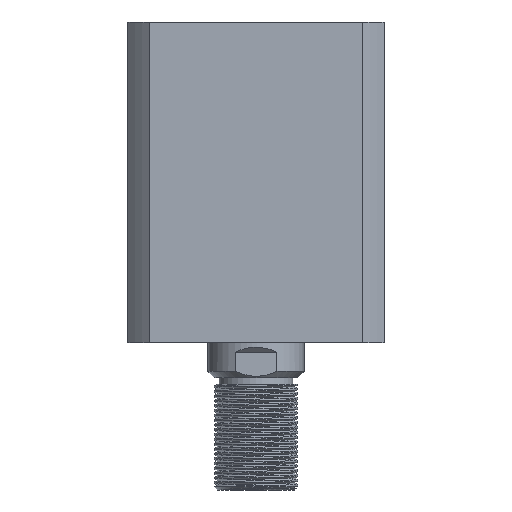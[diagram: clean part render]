
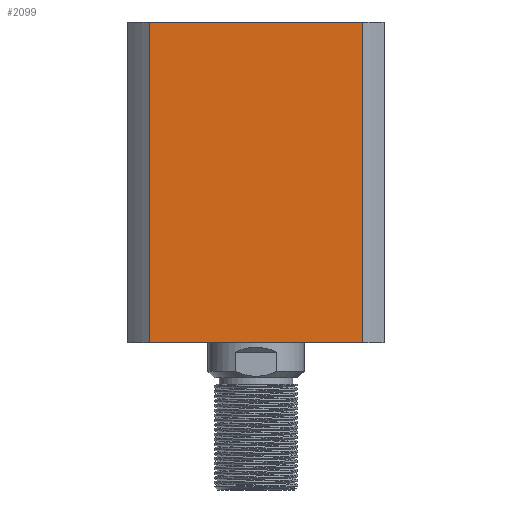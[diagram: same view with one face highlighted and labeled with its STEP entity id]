
A CAD part, left-side view. The second image highlights one B-rep face of the part: STEP entity #2099.
In plain terms, the highlighted planar face has unit normal (-1, 0, 0).
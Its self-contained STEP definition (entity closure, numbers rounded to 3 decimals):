
#585 = CARTESIAN_POINT ( 'NONE',  ( -40., 33.226, -50. ) ) ;
#1366 = VERTEX_POINT ( 'NONE', #11934 ) ;
#1448 = VECTOR ( 'NONE', #12849, 1000. ) ;
#1695 = DIRECTION ( 'NONE',  ( 0., 0., -1. ) ) ;
#2099 = ADVANCED_FACE ( 'NONE', ( #13224 ), #15255, .F. ) ;
#2600 = EDGE_CURVE ( 'NONE', #1366, #10970, #7388, .T. ) ;
#3161 = ORIENTED_EDGE ( 'NONE', *, *, #13154, .F. ) ;
#3542 = CARTESIAN_POINT ( 'NONE',  ( -40., -33.226, 50. ) ) ;
#4446 = EDGE_CURVE ( 'NONE', #10970, #6915, #17767, .T. ) ;
#4693 = CARTESIAN_POINT ( 'NONE',  ( -40., -33.226, 50. ) ) ;
#6161 = VECTOR ( 'NONE', #13081, 1000. ) ;
#6300 = AXIS2_PLACEMENT_3D ( 'NONE', #8403, #9567, #10960 ) ;
#6504 = ORIENTED_EDGE ( 'NONE', *, *, #4446, .T. ) ;
#6915 = VERTEX_POINT ( 'NONE', #14952 ) ;
#7388 = LINE ( 'NONE', #16991, #17512 ) ;
#7500 = DIRECTION ( 'NONE',  ( 0., -1., 0. ) ) ;
#8171 = EDGE_CURVE ( 'NONE', #1366, #11964, #12720, .T. ) ;
#8403 = CARTESIAN_POINT ( 'NONE',  ( -40., 33.226, 50. ) ) ;
#9567 = DIRECTION ( 'NONE',  ( 1., 0., 0. ) ) ;
#10019 = VECTOR ( 'NONE', #7500, 1000. ) ;
#10960 = DIRECTION ( 'NONE',  ( 0., 1., 0. ) ) ;
#10970 = VERTEX_POINT ( 'NONE', #16648 ) ;
#11187 = ORIENTED_EDGE ( 'NONE', *, *, #2600, .T. ) ;
#11934 = CARTESIAN_POINT ( 'NONE',  ( -40., 33.226, 50. ) ) ;
#11964 = VERTEX_POINT ( 'NONE', #3542 ) ;
#12164 = EDGE_LOOP ( 'NONE', ( #6504, #3161, #17360, #11187 ) ) ;
#12720 = LINE ( 'NONE', #14114, #1448 ) ;
#12849 = DIRECTION ( 'NONE',  ( 0., -1., 0. ) ) ;
#13081 = DIRECTION ( 'NONE',  ( 0., 0., -1. ) ) ;
#13154 = EDGE_CURVE ( 'NONE', #11964, #6915, #13519, .T. ) ;
#13224 = FACE_OUTER_BOUND ( 'NONE', #12164, .T. ) ;
#13519 = LINE ( 'NONE', #4693, #6161 ) ;
#14114 = CARTESIAN_POINT ( 'NONE',  ( -40., 33.226, 50. ) ) ;
#14952 = CARTESIAN_POINT ( 'NONE',  ( -40., -33.226, -50. ) ) ;
#15255 = PLANE ( 'NONE',  #6300 ) ;
#16648 = CARTESIAN_POINT ( 'NONE',  ( -40., 33.226, -50. ) ) ;
#16991 = CARTESIAN_POINT ( 'NONE',  ( -40., 33.226, 50. ) ) ;
#17360 = ORIENTED_EDGE ( 'NONE', *, *, #8171, .F. ) ;
#17512 = VECTOR ( 'NONE', #1695, 1000. ) ;
#17767 = LINE ( 'NONE', #585, #10019 ) ;
